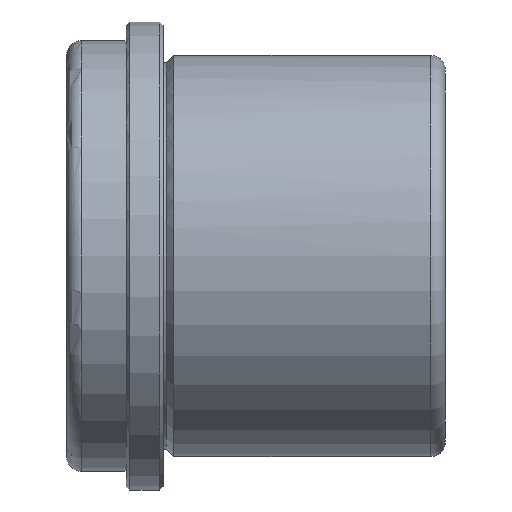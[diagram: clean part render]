
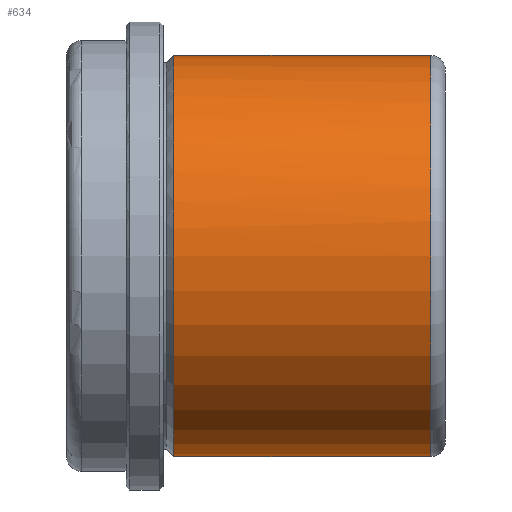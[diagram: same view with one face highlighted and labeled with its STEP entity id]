
A CAD part, front view. The second image highlights one B-rep face of the part: STEP entity #634.
In plain terms, the highlighted cylindrical face has radius 27 mm (diameter 54 mm), a partial arc.
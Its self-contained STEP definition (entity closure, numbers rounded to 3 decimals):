
#413=CARTESIAN_POINT('Line Origine',(38.,0.,27.)) ;
#417=CARTESIAN_POINT('Vertex',(36.,0.,27.)) ;
#419=CARTESIAN_POINT('Vertex',(1.414,0.,27.)) ;
#433=CARTESIAN_POINT('Vertex',(36.,0.,-27.)) ;
#436=CARTESIAN_POINT('Line Origine',(38.,0.,-27.)) ;
#440=CARTESIAN_POINT('Vertex',(1.414,0.,-27.)) ;
#594=CARTESIAN_POINT('Axis2P3D Location',(38.,0.,0.)) ;
#599=CARTESIAN_POINT('Axis2P3D Location',(36.,0.,0.)) ;
#603=CARTESIAN_POINT('Vertex',(36.,-27.,0.)) ;
#606=CARTESIAN_POINT('Axis2P3D Location',(36.,0.,0.)) ;
#612=CARTESIAN_POINT('Control Point',(1.414,0.,27.)) ;
#613=CARTESIAN_POINT('Control Point',(1.414,-8.482,27.)) ;
#614=CARTESIAN_POINT('Control Point',(1.414,-16.973,23.679)) ;
#615=CARTESIAN_POINT('Control Point',(1.414,-23.679,16.973)) ;
#616=CARTESIAN_POINT('Control Point',(1.414,-27.,8.482)) ;
#617=CARTESIAN_POINT('Control Point',(1.414,-27.,0.)) ;
#618=CARTESIAN_POINT('Vertex',(1.414,-27.,0.)) ;
#621=CARTESIAN_POINT('Axis2P3D Location',(1.414,0.,0.)) ;
#414=DIRECTION('Vector Direction',(-1.,0.,0.)) ;
#437=DIRECTION('Vector Direction',(-1.,0.,0.)) ;
#595=DIRECTION('Axis2P3D Direction',(-1.,-0.,-0.)) ;
#596=DIRECTION('Axis2P3D XDirection',(0.,0.,-1.)) ;
#600=DIRECTION('Axis2P3D Direction',(-1.,-0.,-0.)) ;
#607=DIRECTION('Axis2P3D Direction',(-1.,-0.,-0.)) ;
#622=DIRECTION('Axis2P3D Direction',(-1.,-0.,-0.)) ;
#597=AXIS2_PLACEMENT_3D('Cylinder Axis2P3D',#594,#595,#596) ;
#601=AXIS2_PLACEMENT_3D('Circle Axis2P3D',#599,#600,$) ;
#608=AXIS2_PLACEMENT_3D('Circle Axis2P3D',#606,#607,$) ;
#623=AXIS2_PLACEMENT_3D('Circle Axis2P3D',#621,#622,$) ;
#627=ORIENTED_EDGE('',*,*,#442,.T.) ;
#628=ORIENTED_EDGE('',*,*,#605,.F.) ;
#629=ORIENTED_EDGE('',*,*,#610,.F.) ;
#630=ORIENTED_EDGE('',*,*,#421,.T.) ;
#631=ORIENTED_EDGE('',*,*,#620,.T.) ;
#632=ORIENTED_EDGE('',*,*,#625,.T.) ;
#415=VECTOR('Line Direction',#414,1.) ;
#438=VECTOR('Line Direction',#437,1.) ;
#634=ADVANCED_FACE('FAMO-SF1-A40 x 51',(#633),#598,.T.) ;
#611=B_SPLINE_CURVE_WITH_KNOTS('',5,(#612,#613,#614,#615,#616,#617),.UNSPECIFIED.,.F.,.U.,(6,6),(-21.206,21.206),.UNSPECIFIED.) ;
#602=CIRCLE('generated circle',#601,27.) ;
#609=CIRCLE('generated circle',#608,27.) ;
#624=CIRCLE('generated circle',#623,27.) ;
#598=CYLINDRICAL_SURFACE('generated cylinder',#597,27.) ;
#421=EDGE_CURVE('',#418,#420,#416,.T.) ;
#442=EDGE_CURVE('',#441,#434,#439,.F.) ;
#605=EDGE_CURVE('',#604,#434,#602,.F.) ;
#610=EDGE_CURVE('',#418,#604,#609,.F.) ;
#620=EDGE_CURVE('',#420,#619,#611,.T.) ;
#625=EDGE_CURVE('',#619,#441,#624,.F.) ;
#626=EDGE_LOOP('',(#627,#628,#629,#630,#631,#632)) ;
#633=FACE_OUTER_BOUND('',#626,.T.) ;
#416=LINE('Line',#413,#415) ;
#439=LINE('Line',#436,#438) ;
#418=VERTEX_POINT('',#417) ;
#420=VERTEX_POINT('',#419) ;
#434=VERTEX_POINT('',#433) ;
#441=VERTEX_POINT('',#440) ;
#604=VERTEX_POINT('',#603) ;
#619=VERTEX_POINT('',#618) ;
